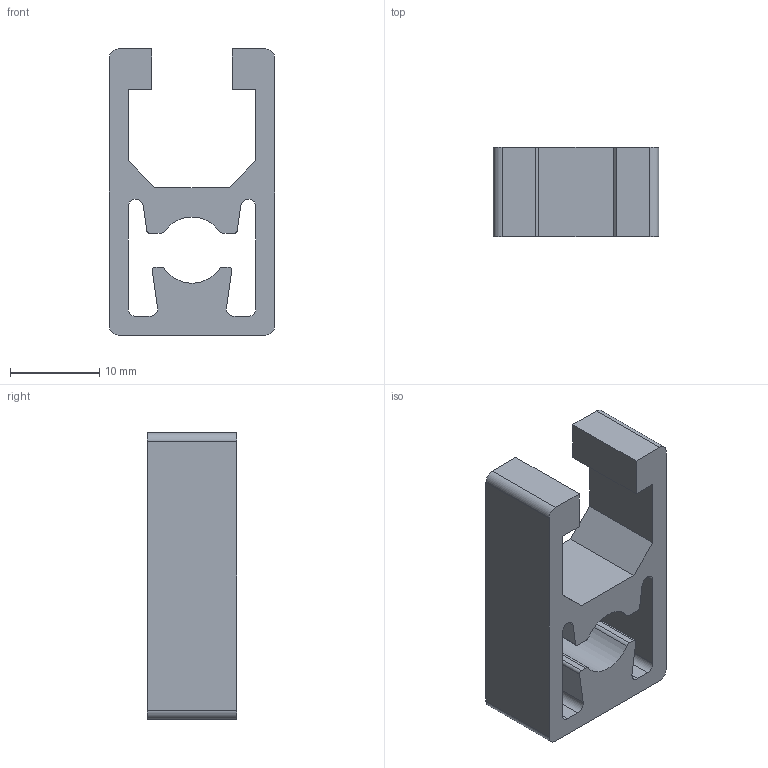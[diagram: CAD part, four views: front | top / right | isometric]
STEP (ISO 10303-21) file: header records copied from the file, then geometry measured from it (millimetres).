
FILE_DESCRIPTION((''),'2;1');
FILE_NAME('PR1850329','2002-12-27T',('Lipro doo'),('Lipro d.o.o.'),'PRO/ENGINEER BY PARAMETRIC TECHNOLOGY CORPORATION, 2001150','PRO/ENGINEER BY PARAMETRIC TECHNOLOGY CORPORATION, 2001150','');
FILE_SCHEMA(('CONFIG_CONTROL_DESIGN'));
Length unit declared in the file: millimetre
Products named in the file (1): PR1850329
Bounding box: 18.5 x 10 x 32 mm (x, y, z)
Volume: 2853.4 mm3; surface area: 2673.9 mm2
Topology: 1 solids, 1 shells, 48 faces, 138 edges, 92 vertices
Faces by surface type: plane 28, cylinder 20
Entity records: 1624 total; most frequent: CARTESIAN_POINT 278, ORIENTED_EDGE 276, DIRECTION 274, EDGE_CURVE 138, VECTOR 98, LINE 98, VERTEX_POINT 92, AXIS2_PLACEMENT_3D 88
